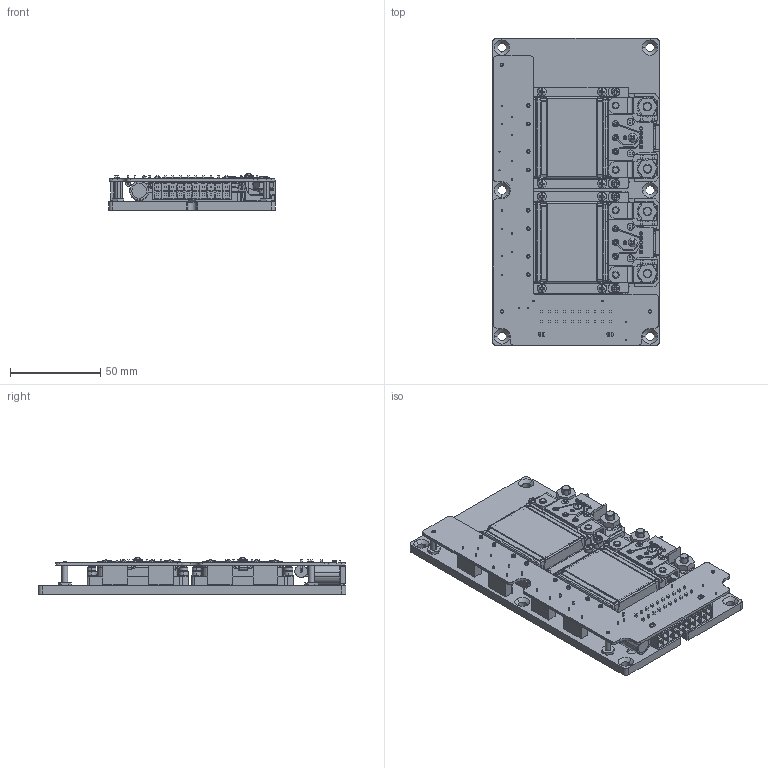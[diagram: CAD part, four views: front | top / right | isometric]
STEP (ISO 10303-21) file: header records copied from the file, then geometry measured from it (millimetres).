
FILE_DESCRIPTION (( 'STEP AP214' ), '1' );
FILE_NAME ('VA-A-LUG-2OUT.STEP', '2011-02-18T22:53:46', ( 'Vicor Employee' ), ( 'Vicor Corporation' ), 'SwSTEP 2.0', 'SolidWorks 2011', '' );
FILE_SCHEMA (( 'AUTOMOTIVE_DESIGN' ));
Length unit declared in the file: inch
Products named in the file (1): VA-A-LUG-2OUT
Bounding box: 92.28 x 170.56 x 20.26 mm (x, y, z)
Volume: 128261.5 mm3; surface area: 107966.4 mm2
Topology: 1 solids, 1 shells, 5313 faces, 14169 edges, 9086 vertices
Faces by surface type: plane 3104, cylinder 1359, bspline 396, cone 324, torus 74, sphere 56
Entity records: 261116 total; most frequent: CARTESIAN_POINT 61979, ORIENTED_EDGE 28282, DIRECTION 25483, EDGE_CURVE 14141, LINE 9215, VECTOR 9215, VERTEX_POINT 9086, AXIS2_PLACEMENT_3D 8134
